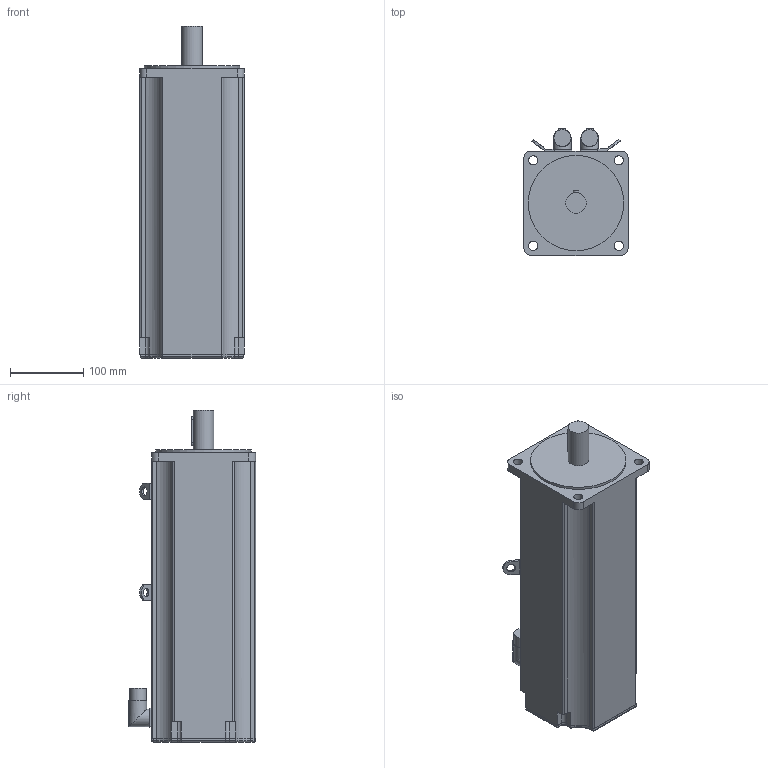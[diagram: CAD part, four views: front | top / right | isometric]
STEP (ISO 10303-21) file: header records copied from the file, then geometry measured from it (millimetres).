
FILE_DESCRIPTION(/* description */ (''),/* implementation_level */ '2;1');
FILE_NAME(/* name */ '\\Lafnas01\disegni\Archivi Lafert\3D\CAD 3D\MODELLI\Assiemi clienti\Serad\Modelli 3D Serad\B71Q\Resolver\Res With Brake\B7132Qxx6B052033.ipt.stp',/* time_stamp */ '2015-09-07T10:52:55+02:00',/* author */ ('Pastrello Ylenia'),/* organization */ (''),/* preprocessor_version */ 'ST-DEVELOPER v15.6',/* originating_system */ 'Autodesk Inventor 2015',/* authorisation */ '');
FILE_SCHEMA (('AUTOMOTIVE_DESIGN { 1 0 10303 214 3 1 1 }'));
Length unit declared in the file: millimetre
Products named in the file (1): B7132Qxx6B052033
Bounding box: 142 x 173.5 x 453 mm (x, y, z)
Volume: 7014148.1 mm3; surface area: 263167.4 mm2
Topology: 1 solids, 1 shells, 172 faces, 450 edges, 290 vertices
Faces by surface type: plane 86, cylinder 74, torus 8, sphere 4
Full cylindrical faces by diameter (mm): 12 x2, 12.5 x4, 22.7 x2, 24 x2, 28 x1, 130 x1
Entity records: 5354 total; most frequent: CARTESIAN_POINT 1031, DIRECTION 920, ORIENTED_EDGE 868, EDGE_CURVE 434, AXIS2_PLACEMENT_3D 323, VERTEX_POINT 286, LINE 274, VECTOR 274
